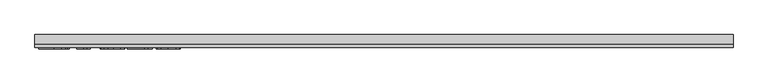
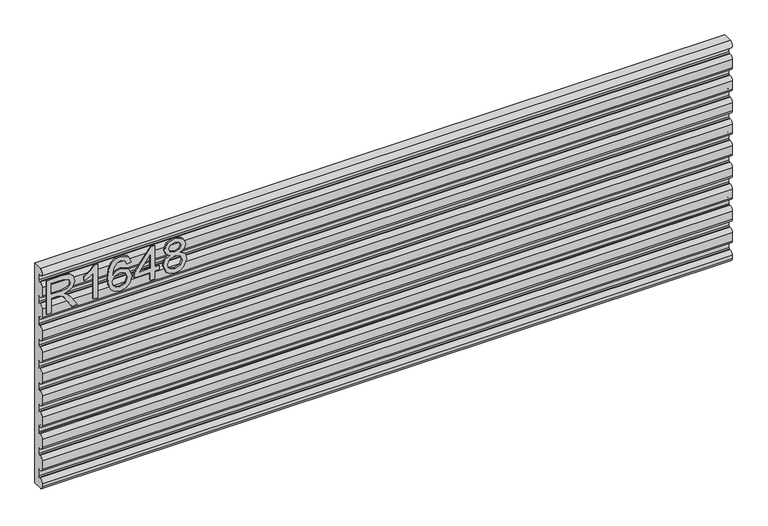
"""IFC4 building model written with IfcOpenShell, lengths in millimetres: furniture geometry."""

from ifc_helpers import new_model, si_unit, point, frame, frame_2d, origin, place, context, project, spatial, polyline, circle_curve, trimmed, segment, composite_curve, outline, extrude, source, transform, mapped, element, save


def furniture_2b01d008(model_context):
    return source(origin(), model_context, "Body", "SweptSolid", [
        extrude(outline(polyline([(1289.05, -596.4115385), (1289.05, -588.5961538), (1316.4038462, -588.5961538), (1316.4038462, -579.1627404), (1316.1290865, -574.6292067), (1314.6408053, -570.9123197), (1310.588101, -566.7832933), (1302.0094952, -560.9064904), (1289.05, -552.7705529), (1289.05, -543.6882212), (1305.9935096, -554.1138221), (1314.0378606, -560.4485577), (1317.3807692, -564.8905048), (1323.1965144, -551.801262), (1334.4616587, -547.5653846), (1343.9179688, -550.1221755), (1349.8863582, -556.960637), (1351.5730769, -569.4698317), (1351.5730769, -596.4115385), (1289.05, -596.4115385)]), holes=[polyline([(1324.2192308, -588.5961538), (1343.7576923, -588.5961538), (1343.7576923, -569.1340144), (1341.0558894, -558.6855168), (1334.1716346, -555.3807692), (1328.8672476, -557.1132812), (1325.3259014, -562.1810697), (1324.2192308, -571.103125), (1324.2192308, -588.5961538)])]), frame((0.0, -24.60625, 0.0), z_axis=(0.0, 1.0, 0.0), x_axis=(0.0, 0.0, 1.0)), (0.0, 0.0, 1.0), 2.38125),
        extrude(outline(polyline([(1289.05, -507.5115385), (1351.5730769, -507.5115385), (1351.5730769, -512.5487981), (1343.2539663, -519.5017428), (1335.9423077, -530.9576923), (1328.5543269, -530.9576923), (1332.5001803, -522.7301683), (1337.7740385, -515.3269231), (1289.05, -515.3269231), (1289.05, -507.5115385)])), frame((0.0, -24.60625, 0.0), z_axis=(0.0, 1.0, 0.0), x_axis=(0.0, 0.0, 1.0)), (0.0, 0.0, 1.0), 2.38125),
        extrude(outline(polyline([(1334.9653846, -448.8961538), (1347.1616587, -454.6661058), (1351.5730769, -467.015024), (1349.7909555, -476.0859075), (1344.4445913, -483.0884615), (1333.8014724, -488.2173077), (1318.2355769, -489.9269231), (1304.3907452, -488.3871244), (1295.0947115, -483.7677284), (1289.8284856, -476.7060246), (1288.0730769, -467.8393029), (1290.7214543, -457.596875), (1298.3536659, -450.4989183), (1309.1379808, -447.9192308), (1323.5323317, -453.3991587), (1329.1038462, -466.6792067), (1327.0660457, -475.2196514), (1320.8305288, -482.1115385), (1334.7593149, -479.8905649), (1341.8649038, -474.555649), (1343.7576923, -467.5034856), (1340.5063702, -459.6728365), (1333.9884615, -456.7115385), (1334.9653846, -448.8961538)]), holes=[polyline([(1309.2600962, -482.1115385), (1317.9684495, -478.2267428), (1321.2884615, -468.7704327), (1317.9684495, -459.1920072), (1308.8784856, -455.7346154), (1299.3840144, -459.2378005), (1295.8884615, -468.4498798), (1297.5751803, -475.4944111), (1302.4903245, -480.3027043), (1309.2600962, -482.1115385)])]), frame((0.0, -24.60625, 0.0), z_axis=(0.0, 1.0, 0.0), x_axis=(0.0, 0.0, 1.0)), (0.0, 0.0, 1.0), 2.38125),
        extrude(outline(polyline([(1289.05, -415.6807692), (1289.05, -407.8653846), (1303.7038462, -407.8653846), (1303.7038462, -400.05), (1311.5192308, -400.05), (1311.5192308, -407.8653846), (1350.5961538, -407.8653846), (1350.5961538, -413.7269231), (1311.5192308, -444.0115385), (1303.7038462, -444.0115385), (1303.7038462, -415.6807692), (1289.05, -415.6807692)]), holes=[polyline([(1311.5192308, -415.6807692), (1311.5192308, -434.3949519), (1335.6675481, -415.6807692), (1311.5192308, -415.6807692)])]), frame((0.0, -24.60625, 0.0), z_axis=(0.0, 1.0, 0.0), x_axis=(0.0, 0.0, 1.0)), (0.0, 0.0, 1.0), 2.38125),
        extrude(outline(polyline([(1323.4865385, -381.8242788), (1317.8081731, -390.2502404), (1307.4588942, -393.2115385), (1293.6216947, -387.5637019), (1289.4602314, -381.0228966), (1288.0730769, -372.6961538), (1289.4545072, -364.3694111), (1293.5987981, -357.8286058), (1307.2451923, -352.1807692), (1317.3578726, -355.0275841), (1323.4865385, -363.3390625), (1328.3177284, -356.4166466), (1335.6828125, -354.1346154), (1346.9479567, -359.2634615), (1351.5730769, -372.8030048), (1347.0548077, -386.2204327), (1335.8965144, -391.2576923), (1328.340625, -388.9451322), (1323.4865385, -381.8242788)]), holes=[polyline([(1335.6675481, -383.4423077), (1341.3764423, -380.6260216), (1343.7576923, -372.6961538), (1341.3230168, -364.7891827), (1335.3164663, -361.95), (1329.5159856, -364.6975962), (1327.15, -372.6045673), (1329.53125, -380.6718149), (1335.6675481, -383.4423077)]), polyline([(1307.7336538, -385.3961538), (1316.0222356, -382.0914062), (1319.3346154, -372.8945913), (1315.9764423, -363.430649), (1307.4894231, -359.9961538), (1299.1626803, -363.3237981), (1295.8884615, -372.6350962), (1297.4454327, -379.4735577), (1301.8492188, -384.0910457), (1307.7336538, -385.3961538)])]), frame((0.0, -24.60625, 0.0), z_axis=(0.0, 1.0, 0.0), x_axis=(0.0, 0.0, 1.0)), (0.0, 0.0, 1.0), 2.38125),
        extrude(outline(composite_curve([segment(polyline([(-11.1273551, 1347.3125759), (-11.1273551, 1357.7113359)]), True, "CONTINUOUS"), segment(trimmed(circle_curve(frame_2d((-12.7148551, 1357.7113359)), 1.5875), [point((-11.1273551, 1357.7113359))], [point((-12.9205788, 1359.2854496))], True, "CARTESIAN"), True, "CONTINUOUS"), segment(trimmed(circle_curve(frame_2d((-1.148465, 1275.710398)), 84.4000706), [point((-12.9205788, 1359.2854496))], [point((-15.1005681, 1358.9492755))], True, "CARTESIAN"), True, "CONTINUOUS"), segment(trimmed(circle_curve(frame_2d((-15.8898551, 1365.2475159)), 6.3475039), [point((-15.1005681, 1358.9492755))], [point((-15.8908532, 1371.5950196))], False, "CARTESIAN"), True, "CONTINUOUS"), segment(polyline([(-15.8908532, 1371.5950196), (-0.0148551, 1371.5975159), (-0.0148551, 965.2), (-15.8898551, 965.2)]), True, "CONTINUOUS"), segment(trimmed(circle_curve(frame_2d((-15.8898551, 971.5475038)), 6.3475038), [point((-15.8898551, 965.2))], [point((-22.2373589, 971.5475038))], False, "CARTESIAN"), True, "CONTINUOUS"), segment(polyline([(-22.2373589, 971.5475038), (-22.2373589, 977.3539438)]), True, "CONTINUOUS"), segment(trimmed(circle_curve(frame_2d((-15.8898551, 977.3539438)), 6.3475038), [point((-22.2373589, 977.3539438))], [point((-15.1005681, 983.6521841))], False, "CARTESIAN"), True, "CONTINUOUS"), segment(trimmed(circle_curve(frame_2d((-1.148465, 1066.8910617)), 84.4000706), [point((-15.1005681, 983.6521841))], [point((-12.9205788, 983.31601))], True, "CARTESIAN"), True, "CONTINUOUS"), segment(trimmed(circle_curve(frame_2d((-12.7148551, 984.8901238)), 1.5875), [point((-12.9205788, 983.31601))], [point((-11.1273551, 984.8901238))], True, "CARTESIAN"), True, "CONTINUOUS"), segment(polyline([(-11.1273551, 984.8901238), (-11.1273551, 996.9060073)]), True, "CONTINUOUS"), segment(trimmed(circle_curve(frame_2d((-12.7148551, 996.9060073)), 1.5875), [point((-11.1273551, 996.9060073))], [point((-12.9205788, 998.480121))], True, "CARTESIAN"), True, "CONTINUOUS"), segment(trimmed(circle_curve(frame_2d((-1.148465, 914.9050694)), 84.4000706), [point((-12.9205788, 998.480121))], [point((-15.1005681, 998.143947))], True, "CARTESIAN"), True, "CONTINUOUS"), segment(trimmed(circle_curve(frame_2d((-15.8898551, 1004.4421873)), 6.3475039), [point((-15.1005681, 998.143947))], [point((-22.225, 1004.0462778))], False, "CARTESIAN"), True, "CONTINUOUS"), segment(polyline([(-22.225, 1004.0462778), (-22.225, 1019.4564578)]), True, "CONTINUOUS"), segment(trimmed(circle_curve(frame_2d((-15.8898551, 1019.0605483)), 6.3475039), [point((-22.225, 1019.4564578))], [point((-15.1005681, 1025.3587886))], False, "CARTESIAN"), True, "CONTINUOUS"), segment(trimmed(circle_curve(frame_2d((-1.148465, 1108.5976662)), 84.4000706), [point((-15.1005681, 1025.3587886))], [point((-12.9205788, 1025.0226145))], True, "CARTESIAN"), True, "CONTINUOUS"), segment(trimmed(circle_curve(frame_2d((-12.7148551, 1026.5967283)), 1.5875), [point((-12.9205788, 1025.0226145))], [point((-11.1273551, 1026.5967283))], True, "CARTESIAN"), True, "CONTINUOUS"), segment(polyline([(-11.1273551, 1026.5967283), (-11.1273551, 1036.9954883)]), True, "CONTINUOUS"), segment(trimmed(circle_curve(frame_2d((-12.7148551, 1036.9954883)), 1.5875), [point((-11.1273551, 1036.9954883))], [point((-12.9205788, 1038.569602))], True, "CARTESIAN"), True, "CONTINUOUS"), segment(trimmed(circle_curve(frame_2d((-1.148465, 954.9945503)), 84.4000706), [point((-12.9205788, 1038.569602))], [point((-15.1005681, 1038.2334279))], True, "CARTESIAN"), True, "CONTINUOUS"), segment(trimmed(circle_curve(frame_2d((-15.8898551, 1044.5316682)), 6.3475039), [point((-15.1005681, 1038.2334279))], [point((-22.225, 1044.1357587))], False, "CARTESIAN"), True, "CONTINUOUS"), segment(polyline([(-22.225, 1044.1357587), (-22.225, 1059.5459387)]), True, "CONTINUOUS"), segment(trimmed(circle_curve(frame_2d((-15.8898551, 1059.1500292)), 6.3475039), [point((-22.225, 1059.5459387))], [point((-15.1005681, 1065.4482696))], False, "CARTESIAN"), True, "CONTINUOUS"), segment(trimmed(circle_curve(frame_2d((-1.148465, 1148.6871471)), 84.4000706), [point((-15.1005681, 1065.4482696))], [point((-12.9205788, 1065.1120955))], True, "CARTESIAN"), True, "CONTINUOUS"), segment(trimmed(circle_curve(frame_2d((-12.7148551, 1066.6862092)), 1.5875), [point((-12.9205788, 1065.1120955))], [point((-11.1273551, 1066.6862092))], True, "CARTESIAN"), True, "CONTINUOUS"), segment(polyline([(-11.1273551, 1066.6862092), (-11.1273551, 1077.0849692)]), True, "CONTINUOUS"), segment(trimmed(circle_curve(frame_2d((-12.7148551, 1077.0849692)), 1.5875), [point((-11.1273551, 1077.0849692))], [point((-12.9205788, 1078.6590829))], True, "CARTESIAN"), True, "CONTINUOUS"), segment(trimmed(circle_curve(frame_2d((-1.148465, 995.0840313)), 84.4000706), [point((-12.9205788, 1078.6590829))], [point((-15.1005681, 1078.3229089))], True, "CARTESIAN"), True, "CONTINUOUS"), segment(trimmed(circle_curve(frame_2d((-15.8898551, 1084.6211492)), 6.3475039), [point((-15.1005681, 1078.3229089))], [point((-22.225, 1084.2252397))], False, "CARTESIAN"), True, "CONTINUOUS"), segment(polyline([(-22.225, 1084.2252397), (-22.225, 1099.6354197)]), True, "CONTINUOUS"), segment(trimmed(circle_curve(frame_2d((-15.8898551, 1099.2395102)), 6.3475039), [point((-22.225, 1099.6354197))], [point((-15.1005681, 1105.5377505))], False, "CARTESIAN"), True, "CONTINUOUS"), segment(trimmed(circle_curve(frame_2d((-1.148465, 1188.7766281)), 84.4000706), [point((-15.1005681, 1105.5377505))], [point((-12.9205788, 1105.2015764))], True, "CARTESIAN"), True, "CONTINUOUS"), segment(trimmed(circle_curve(frame_2d((-12.7148551, 1106.7756902)), 1.5875), [point((-12.9205788, 1105.2015764))], [point((-11.1273551, 1106.7756902))], True, "CARTESIAN"), True, "CONTINUOUS"), segment(polyline([(-11.1273551, 1106.7756902), (-11.1273551, 1117.1744502)]), True, "CONTINUOUS"), segment(trimmed(circle_curve(frame_2d((-12.7148551, 1117.1744502)), 1.5875), [point((-11.1273551, 1117.1744502))], [point((-12.9205788, 1118.7485639))], True, "CARTESIAN"), True, "CONTINUOUS"), segment(trimmed(circle_curve(frame_2d((-1.148465, 1035.1735122)), 84.4000706), [point((-12.9205788, 1118.7485639))], [point((-15.1005681, 1118.4123898))], True, "CARTESIAN"), True, "CONTINUOUS"), segment(trimmed(circle_curve(frame_2d((-15.8898551, 1124.7106301)), 6.3475039), [point((-15.1005681, 1118.4123898))], [point((-22.225, 1124.3147206))], False, "CARTESIAN"), True, "CONTINUOUS"), segment(polyline([(-22.225, 1124.3147206), (-22.225, 1139.7249006)]), True, "CONTINUOUS"), segment(trimmed(circle_curve(frame_2d((-15.8898551, 1139.3289911)), 6.3475039), [point((-22.225, 1139.7249006))], [point((-15.1005681, 1145.6272315))], False, "CARTESIAN"), True, "CONTINUOUS"), segment(trimmed(circle_curve(frame_2d((-1.148465, 1228.8661091)), 84.4000706), [point((-15.1005681, 1145.6272315))], [point((-12.9205788, 1145.2910574))], True, "CARTESIAN"), True, "CONTINUOUS"), segment(trimmed(circle_curve(frame_2d((-12.7148551, 1146.8651711)), 1.5875), [point((-12.9205788, 1145.2910574))], [point((-11.1273551, 1146.8651711))], True, "CARTESIAN"), True, "CONTINUOUS"), segment(polyline([(-11.1273551, 1146.8651711), (-11.1273551, 1157.2639311)]), True, "CONTINUOUS"), segment(trimmed(circle_curve(frame_2d((-12.7148551, 1157.2639311)), 1.5875), [point((-11.1273551, 1157.2639311))], [point((-12.9205788, 1158.8380449))], True, "CARTESIAN"), True, "CONTINUOUS"), segment(trimmed(circle_curve(frame_2d((-1.148465, 1075.2629932)), 84.4000706), [point((-12.9205788, 1158.8380449))], [point((-15.1005681, 1158.5018708))], True, "CARTESIAN"), True, "CONTINUOUS"), segment(trimmed(circle_curve(frame_2d((-15.8898551, 1164.8001111)), 6.3475039), [point((-15.1005681, 1158.5018708))], [point((-22.225, 1164.4042016))], False, "CARTESIAN"), True, "CONTINUOUS"), segment(polyline([(-22.225, 1164.4042016), (-22.225, 1179.8143816)]), True, "CONTINUOUS"), segment(trimmed(circle_curve(frame_2d((-15.8898551, 1179.4184721)), 6.3475039), [point((-22.225, 1179.8143816))], [point((-15.1005681, 1185.7167124))], False, "CARTESIAN"), True, "CONTINUOUS"), segment(trimmed(circle_curve(frame_2d((-1.148465, 1268.95559)), 84.4000706), [point((-15.1005681, 1185.7167124))], [point((-12.9205788, 1185.3805383))], True, "CARTESIAN"), True, "CONTINUOUS"), segment(trimmed(circle_curve(frame_2d((-12.7148551, 1186.9546521)), 1.5875), [point((-12.9205788, 1185.3805383))], [point((-11.1273551, 1186.9546521))], True, "CARTESIAN"), True, "CONTINUOUS"), segment(polyline([(-11.1273551, 1186.9546521), (-11.1273551, 1197.3534121)]), True, "CONTINUOUS"), segment(trimmed(circle_curve(frame_2d((-12.7148551, 1197.3534121)), 1.5875), [point((-11.1273551, 1197.3534121))], [point((-12.9205788, 1198.9275258))], True, "CARTESIAN"), True, "CONTINUOUS"), segment(trimmed(circle_curve(frame_2d((-1.148465, 1115.3524741)), 84.4000706), [point((-12.9205788, 1198.9275258))], [point((-15.1005681, 1198.5913517))], True, "CARTESIAN"), True, "CONTINUOUS"), segment(trimmed(circle_curve(frame_2d((-15.8898551, 1204.889592)), 6.3475039), [point((-15.1005681, 1198.5913517))], [point((-22.225, 1204.4936826))], False, "CARTESIAN"), True, "CONTINUOUS"), segment(polyline([(-22.225, 1204.4936826), (-22.225, 1219.9038626)]), True, "CONTINUOUS"), segment(trimmed(circle_curve(frame_2d((-15.8898551, 1219.5079531)), 6.3475039), [point((-22.225, 1219.9038626))], [point((-15.1005681, 1225.8061934))], False, "CARTESIAN"), True, "CONTINUOUS"), segment(trimmed(circle_curve(frame_2d((-1.148465, 1309.045071)), 84.4000706), [point((-15.1005681, 1225.8061934))], [point((-12.9205788, 1225.4700193))], True, "CARTESIAN"), True, "CONTINUOUS"), segment(trimmed(circle_curve(frame_2d((-12.7148551, 1227.044133)), 1.5875), [point((-12.9205788, 1225.4700193))], [point((-11.1273551, 1227.044133))], True, "CARTESIAN"), True, "CONTINUOUS"), segment(polyline([(-11.1273551, 1227.044133), (-11.1273551, 1237.442893)]), True, "CONTINUOUS"), segment(trimmed(circle_curve(frame_2d((-12.7148551, 1237.442893)), 1.5875), [point((-11.1273551, 1237.442893))], [point((-12.9205788, 1239.0170068))], True, "CARTESIAN"), True, "CONTINUOUS"), segment(trimmed(circle_curve(frame_2d((-1.148465, 1155.4419551)), 84.4000706), [point((-12.9205788, 1239.0170068))], [point((-15.1005681, 1238.6808327))], True, "CARTESIAN"), True, "CONTINUOUS"), segment(trimmed(circle_curve(frame_2d((-15.8898551, 1244.979073)), 6.3475039), [point((-15.1005681, 1238.6808327))], [point((-22.225, 1244.5831635))], False, "CARTESIAN"), True, "CONTINUOUS"), segment(polyline([(-22.225, 1244.5831635), (-22.225, 1259.9933435)]), True, "CONTINUOUS"), segment(trimmed(circle_curve(frame_2d((-15.8898551, 1259.597434)), 6.3475039), [point((-22.225, 1259.9933435))], [point((-15.1005681, 1265.8956743))], False, "CARTESIAN"), True, "CONTINUOUS"), segment(trimmed(circle_curve(frame_2d((-1.148465, 1349.1345519)), 84.4000706), [point((-15.1005681, 1265.8956743))], [point((-12.9205788, 1265.5595003))], True, "CARTESIAN"), True, "CONTINUOUS"), segment(trimmed(circle_curve(frame_2d((-12.7148551, 1267.133614)), 1.5875), [point((-12.9205788, 1265.5595003))], [point((-11.1273551, 1267.133614))], True, "CARTESIAN"), True, "CONTINUOUS"), segment(polyline([(-11.1273551, 1267.133614), (-11.1273551, 1277.532374)]), True, "CONTINUOUS"), segment(trimmed(circle_curve(frame_2d((-12.7148551, 1277.532374)), 1.5875), [point((-11.1273551, 1277.532374))], [point((-12.9205788, 1279.1064877))], True, "CARTESIAN"), True, "CONTINUOUS"), segment(trimmed(circle_curve(frame_2d((-1.148465, 1195.5314361)), 84.4000706), [point((-12.9205788, 1279.1064877))], [point((-15.1005681, 1278.7703136))], True, "CARTESIAN"), True, "CONTINUOUS"), segment(trimmed(circle_curve(frame_2d((-15.8898551, 1285.068554)), 6.3475039), [point((-15.1005681, 1278.7703136))], [point((-22.225, 1284.6726445))], False, "CARTESIAN"), True, "CONTINUOUS"), segment(polyline([(-22.225, 1284.6726445), (-22.225, 1300.0828245)]), True, "CONTINUOUS"), segment(trimmed(circle_curve(frame_2d((-15.8898551, 1299.686915)), 6.3475039), [point((-22.225, 1300.0828245))], [point((-15.1005681, 1305.9851553))], False, "CARTESIAN"), True, "CONTINUOUS"), segment(trimmed(circle_curve(frame_2d((-1.148465, 1389.2240329)), 84.4000706), [point((-15.1005681, 1305.9851553))], [point((-12.9205788, 1305.6489812))], True, "CARTESIAN"), True, "CONTINUOUS"), segment(trimmed(circle_curve(frame_2d((-12.7148551, 1307.2230949)), 1.5875), [point((-12.9205788, 1305.6489812))], [point((-11.1273551, 1307.2230949))], True, "CARTESIAN"), True, "CONTINUOUS"), segment(polyline([(-11.1273551, 1307.2230949), (-11.1273551, 1317.6218549)]), True, "CONTINUOUS"), segment(trimmed(circle_curve(frame_2d((-12.7148551, 1317.6218549)), 1.5875), [point((-11.1273551, 1317.6218549))], [point((-12.9205788, 1319.1959687))], True, "CARTESIAN"), True, "CONTINUOUS"), segment(trimmed(circle_curve(frame_2d((-1.148465, 1235.620917)), 84.4000706), [point((-12.9205788, 1319.1959687))], [point((-15.1005681, 1318.8597946))], True, "CARTESIAN"), True, "CONTINUOUS"), segment(trimmed(circle_curve(frame_2d((-15.8898551, 1325.1580349)), 6.3475039), [point((-15.1005681, 1318.8597946))], [point((-22.225, 1324.7621254))], False, "CARTESIAN"), True, "CONTINUOUS"), segment(polyline([(-22.225, 1324.7621254), (-22.225, 1340.1723054)]), True, "CONTINUOUS"), segment(trimmed(circle_curve(frame_2d((-15.8898551, 1339.7763959)), 6.3475039), [point((-22.225, 1340.1723054))], [point((-15.1005681, 1346.0746362))], False, "CARTESIAN"), True, "CONTINUOUS"), segment(trimmed(circle_curve(frame_2d((-1.148465, 1429.3135138)), 84.4000706), [point((-15.1005681, 1346.0746362))], [point((-12.9205788, 1345.7384622))], True, "CARTESIAN"), True, "CONTINUOUS"), segment(trimmed(circle_curve(frame_2d((-12.7148551, 1347.3125759)), 1.5875), [point((-12.9205788, 1345.7384622))], [point((-11.1273551, 1347.3125759))], True, "CARTESIAN"), True, "CONTINUOUS")], self_intersect=False)), frame((-603.25, 0.0, 0.0), z_axis=(1.0, 0.0, 0.0), x_axis=(0.0, 1.0, 0.0)), (0.0, 0.0, 1.0), 1206.5),
    ])


if __name__ == "__main__":
    model = new_model("IFC4")
    model_context = context("Model", 3, world=origin())
    ifc_project = project(units=[si_unit("LENGTHUNIT", "METRE", prefix="MILLI")], contexts=[model_context])
    site = spatial("IfcSite", under=ifc_project)
    building = spatial("IfcBuilding", under=site)
    placement = place(None, origin())
    furniture_shape = furniture_2b01d008(model_context)
    element("IfcFurniture", 1, ObjectType="HermanMiller_Ethospace_E1425_RailTile : 16\"H x 48\"W", at=placement, inside=building, context=model_context, shape_type="MappedRepresentation", body=[
        mapped(furniture_shape, transform((0.0, 0.0, 0.0), x_axis=(1.0, 0.0, 0.0), y_axis=(0.0, 1.0, 0.0), z_axis=(0.0, 0.0, 1.0))),
    ])
    save(model, "model.ifc")
